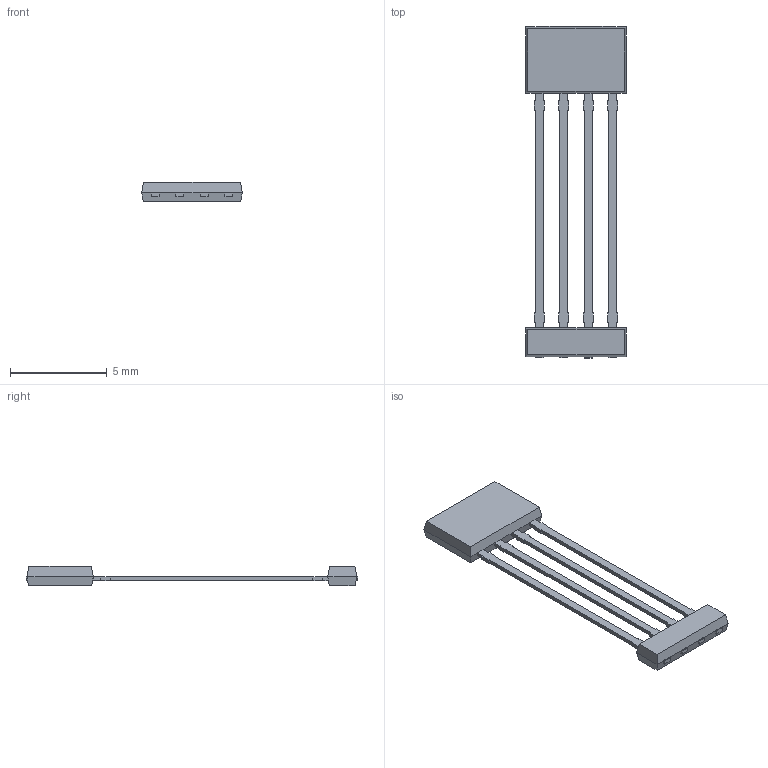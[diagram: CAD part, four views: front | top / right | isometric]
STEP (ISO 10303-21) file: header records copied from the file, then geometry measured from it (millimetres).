
FILE_DESCRIPTION (( 'STEP AP214' ), '1' );
FILE_NAME ('KT.STEP', '2017-01-10T15:48:28', ( '' ), ( '' ), 'SwSTEP 2.0', 'SolidWorks 2015', '' );
FILE_SCHEMA (( 'AUTOMOTIVE_DESIGN' ));
Length unit declared in the file: millimetre
Products named in the file (2): KT; KT mold
Assembly tree (1 placements, depth 2):
  KT
    KT mold
Bounding box: 5.21 x 17.18 x 1 mm (x, y, z)
Volume: 28.3 mm3; surface area: 137.5 mm2
Topology: 1 solids, 1 shells, 136 faces, 370 edges, 240 vertices
Faces by surface type: plane 132, cylinder 4
Entity records: 4260 total; most frequent: CARTESIAN_POINT 750, ORIENTED_EDGE 740, DIRECTION 658, EDGE_CURVE 370, VECTOR 362, LINE 362, VERTEX_POINT 240, AXIS2_PLACEMENT_3D 148
